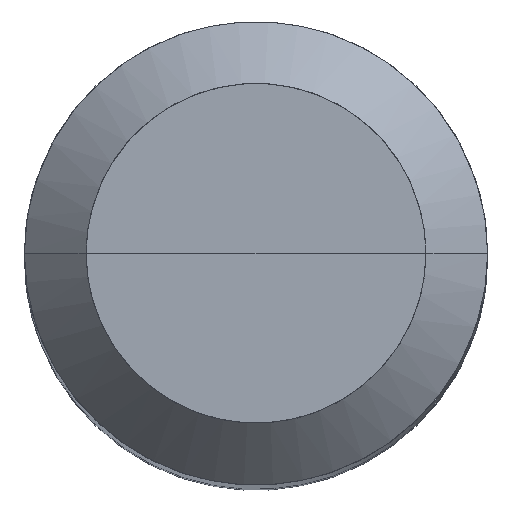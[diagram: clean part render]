
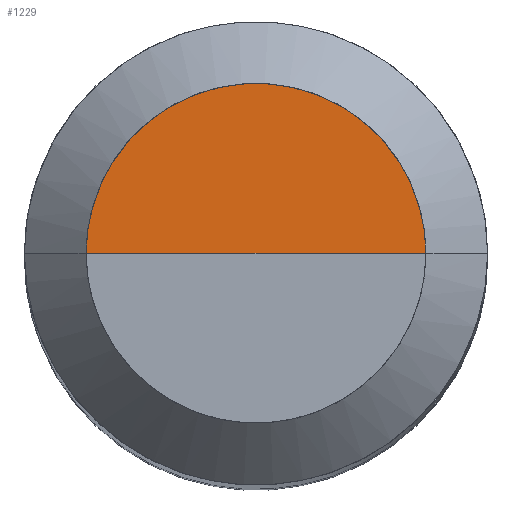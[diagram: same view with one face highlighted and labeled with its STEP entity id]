
A CAD part, top view. The second image highlights one B-rep face of the part: STEP entity #1229.
In plain terms, the highlighted free-form (B-spline) face has degree [1, 2] with [2, 5] control points.
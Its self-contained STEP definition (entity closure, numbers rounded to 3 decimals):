
#990=CARTESIAN_POINT('',(2.2,0.0,30.0));
#991=CARTESIAN_POINT('',(2.2,2.2,30.0));
#992=CARTESIAN_POINT('',(0.0,2.2,30.0));
#993=CARTESIAN_POINT('',(-2.2,2.2,30.0));
#994=CARTESIAN_POINT('',(-2.2,0.0,30.0));
#995=CARTESIAN_POINT('',(0.0,0.0,30.0));
#1214=(
BOUNDED_SURFACE()
B_SPLINE_SURFACE(1,2,(
(#990,#991,#992,#993,#994),
(#995,#995,#995,#995,#995)
), .UNSPECIFIED.,.F.,.F.,.F.)
B_SPLINE_SURFACE_WITH_KNOTS((2,2),(3,2,3),(
0.0,1.0),(
0.0,0.5,1.0), .UNSPECIFIED.)
GEOMETRIC_REPRESENTATION_ITEM()
RATIONAL_B_SPLINE_SURFACE(((1.0,0.707,1.0,0.707,1.0),
(1.0,0.707,1.0,0.707,1.0)
))
REPRESENTATION_ITEM('')
SURFACE()
);
#1215=(
BOUNDED_CURVE()
B_SPLINE_CURVE(2,(#994,#993,#992,#991,#990),.UNSPECIFIED.,.F.,.F.)
B_SPLINE_CURVE_WITH_KNOTS((3,2,3),
(0.0,0.5,1.0),.UNSPECIFIED.)
CURVE()
GEOMETRIC_REPRESENTATION_ITEM()
RATIONAL_B_SPLINE_CURVE((1.0,0.707,1.0,0.707,1.0))
REPRESENTATION_ITEM('')
);
#1216=(
BOUNDED_CURVE()
B_SPLINE_CURVE(1,(#990,#995),.UNSPECIFIED.,.F.,.F.)
B_SPLINE_CURVE_WITH_KNOTS((2,2),
(0.0,1.0),.UNSPECIFIED.)
CURVE()
GEOMETRIC_REPRESENTATION_ITEM()
RATIONAL_B_SPLINE_CURVE((1.0,1.0))
REPRESENTATION_ITEM('')
);
#1217=(
BOUNDED_CURVE()
B_SPLINE_CURVE(1,(#995,#994),.UNSPECIFIED.,.F.,.F.)
B_SPLINE_CURVE_WITH_KNOTS((2,2),
(0.0,1.0),.UNSPECIFIED.)
CURVE()
GEOMETRIC_REPRESENTATION_ITEM()
RATIONAL_B_SPLINE_CURVE((1.0,1.0))
REPRESENTATION_ITEM('')
);
#1218=VERTEX_POINT('',#990);
#1219=VERTEX_POINT('',#994);
#1220=VERTEX_POINT('',#995);
#1221=EDGE_CURVE('',#1219,#1218,#1215,.T.);
#1222=EDGE_CURVE('',#1218,#1220,#1216,.T.);
#1223=EDGE_CURVE('',#1220,#1219,#1217,.T.);
#1224=ORIENTED_EDGE('',*,*,#1221,.T.);
#1225=ORIENTED_EDGE('',*,*,#1222,.T.);
#1226=ORIENTED_EDGE('',*,*,#1223,.T.);
#1227=EDGE_LOOP('',(#1224,#1225,#1226));
#1228=FACE_OUTER_BOUND('',#1227,.T.);
#1229=ADVANCED_FACE('',(#1228),#1214,.T.);
